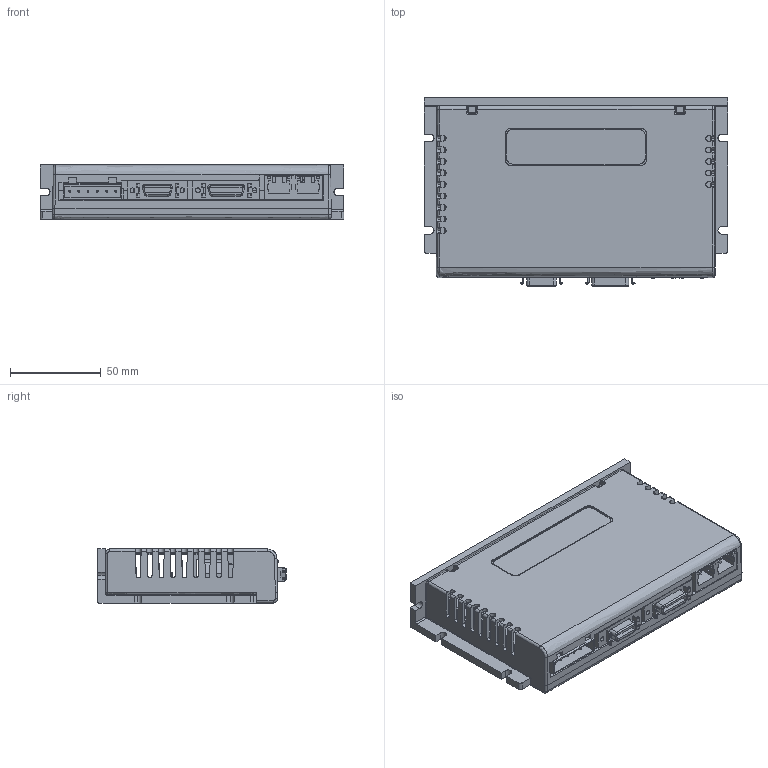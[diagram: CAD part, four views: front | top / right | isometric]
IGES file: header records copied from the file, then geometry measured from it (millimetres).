
Start section: SolidWorks IGES file using analytic representation for surfaces
Global section: file name: K:\ALL Users\Chris Roy\Projects\CMS\Customer Files\acp-55-18\00-00534-000.IGS; native system: SolidWorks 2005 by SolidWorks Corporation; preprocessor: SolidWorks 2005 by SolidWorks Corporation; author: croy; date: 050203.112512; units: inch
Bounding box: 167 x 103.89 x 29.72 mm (x, y, z)
Surface area: 152063.4 mm2 (no closed solid volume)
Topology: 0 solids, 0 shells, 2465 faces, 26340 edges, 26328 vertices
Faces by surface type: bspline 1450, revolution 1015
